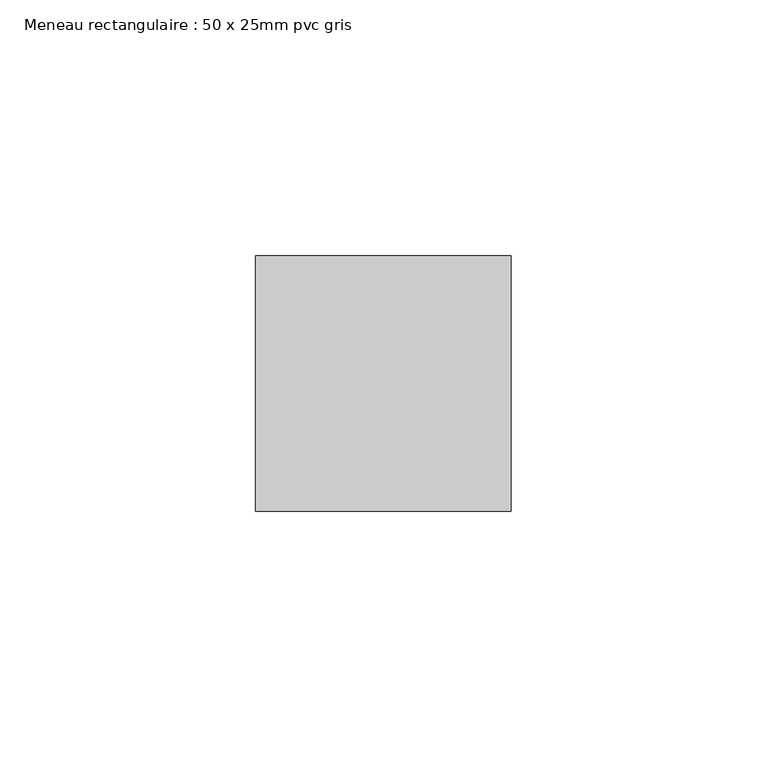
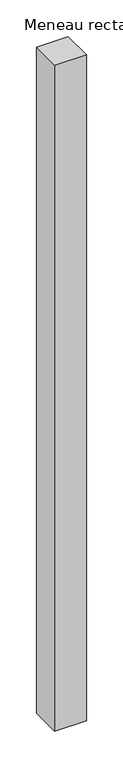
"""IFC4 building model written with IfcOpenShell, lengths in millimetres: member geometry, Meneau rectangulaire : 50 x 25mm pvc gris."""

from ifc_helpers import new_model, si_unit, frame, origin, place, context, project, spatial, polyline, outline, extrude, source, transform, mapped, element, save


def meneau_rectangulaire_50_x_25mm_pvc_gris_7ccf650c(model_context):
    return source(origin(), model_context, "Body", "SweptSolid", [
        extrude(outline(polyline([(0.0, 0.0), (0.0, -50.0), (-50.0, -50.0), (-50.0, 0.0), (0.0, 0.0)])), frame((0.0, 0.0, -1112.0), z_axis=(0.0, 0.0, 1.0), x_axis=(1.0, 0.0, 0.0)), (0.0, 0.0, 1.0), 1112.0),
    ])


if __name__ == "__main__":
    model = new_model("IFC4")
    model_context = context("Model", 3, world=origin())
    ifc_project = project(units=[si_unit("LENGTHUNIT", "METRE", prefix="MILLI")], contexts=[model_context])
    site = spatial("IfcSite", under=ifc_project)
    building = spatial("IfcBuilding", under=site)
    placement = place(None, origin())
    meneau_rectangulaire_50_x_25mm_pvc_gris_shape = meneau_rectangulaire_50_x_25mm_pvc_gris_7ccf650c(model_context)
    element("IfcMember", 1, ObjectType="Meneau rectangulaire : 50 x 25mm pvc gris", at=placement, inside=building, context=model_context, shape_type="MappedRepresentation", body=[
        mapped(meneau_rectangulaire_50_x_25mm_pvc_gris_shape, transform((0.0, 0.0, 0.0), x_axis=(1.0, 0.0, 0.0), y_axis=(0.0, 1.0, 0.0), z_axis=(0.0, 0.0, 1.0))),
    ])
    save(model, "model.ifc")
